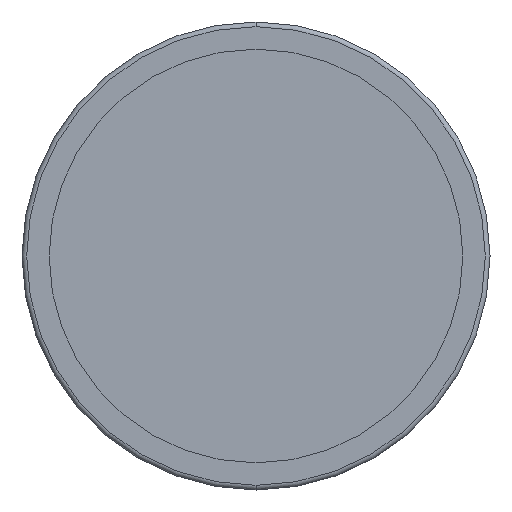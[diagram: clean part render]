
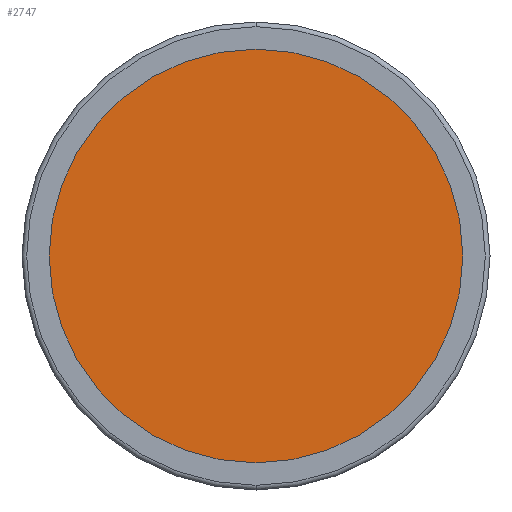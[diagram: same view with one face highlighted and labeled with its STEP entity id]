
A CAD part, front view. The second image highlights one B-rep face of the part: STEP entity #2747.
In plain terms, the highlighted planar face has unit normal (0, -1, 0).
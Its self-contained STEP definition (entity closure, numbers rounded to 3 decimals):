
#138 = CIRCLE ( 'NONE', #1527, 43.75 ) ;
#151 = VERTEX_POINT ( 'NONE', #1269 ) ;
#202 = DIRECTION ( 'NONE',  ( 0., -1., 0. ) ) ;
#426 = FACE_OUTER_BOUND ( 'NONE', #2029, .T. ) ;
#509 = ORIENTED_EDGE ( 'NONE', *, *, #2926, .F. ) ;
#557 = DIRECTION ( 'NONE',  ( 0., 1., 0. ) ) ;
#665 = CARTESIAN_POINT ( 'NONE',  ( 0., -3., 0. ) ) ;
#788 = DIRECTION ( 'NONE',  ( 0., 0., 1. ) ) ;
#880 = DIRECTION ( 'NONE',  ( 0., 1., 0. ) ) ;
#907 = CARTESIAN_POINT ( 'NONE',  ( -43.75, -3., 0. ) ) ;
#976 = ORIENTED_EDGE ( 'NONE', *, *, #1125, .F. ) ;
#1125 = EDGE_CURVE ( 'NONE', #2748, #151, #138, .T. ) ;
#1269 = CARTESIAN_POINT ( 'NONE',  ( 0., -3., 43.75 ) ) ;
#1398 = DIRECTION ( 'NONE',  ( 0., 0., 1. ) ) ;
#1527 = AXIS2_PLACEMENT_3D ( 'NONE', #665, #880, #1398 ) ;
#1914 = CARTESIAN_POINT ( 'NONE',  ( 0., -3., -43.75 ) ) ;
#2029 = EDGE_LOOP ( 'NONE', ( #509, #976 ) ) ;
#2540 = CARTESIAN_POINT ( 'NONE',  ( 0., -3., 0. ) ) ;
#2747 = ADVANCED_FACE ( 'NONE', ( #426 ), #3118, .T. ) ;
#2748 = VERTEX_POINT ( 'NONE', #1914 ) ;
#2878 = AXIS2_PLACEMENT_3D ( 'NONE', #2540, #557, #788 ) ;
#2926 = EDGE_CURVE ( 'NONE', #151, #2748, #2929, .T. ) ;
#2929 = CIRCLE ( 'NONE', #2878, 43.75 ) ;
#2945 = AXIS2_PLACEMENT_3D ( 'NONE', #907, #202, #3152 ) ;
#3118 = PLANE ( 'NONE',  #2945 ) ;
#3152 = DIRECTION ( 'NONE',  ( 0., 0., -1. ) ) ;
